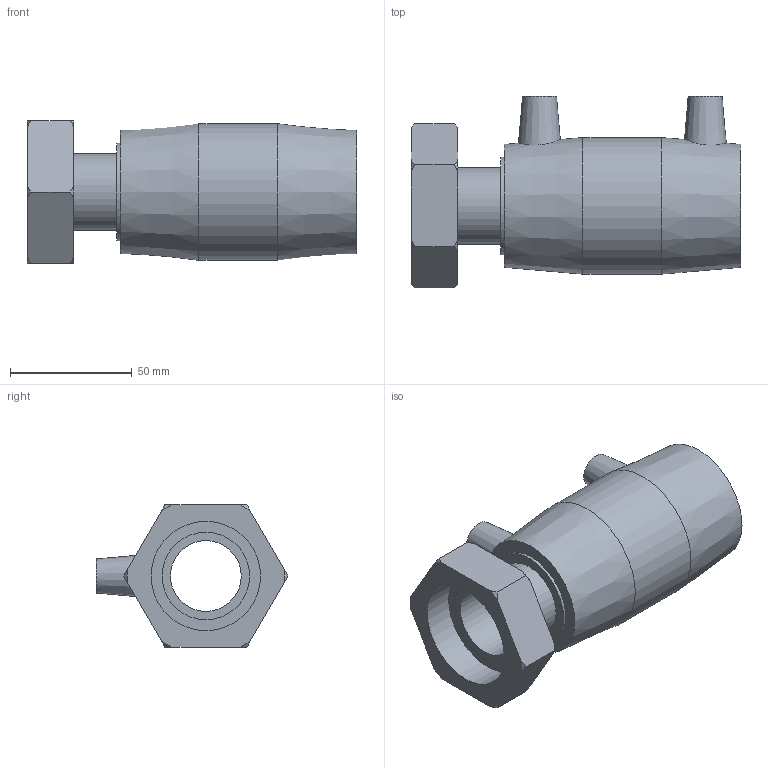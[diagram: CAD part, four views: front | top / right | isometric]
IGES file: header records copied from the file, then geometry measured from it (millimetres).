
Global section: file name: 494104040015.ipt; native system: Autodesk Inventor 2015; preprocessor: unknown; author: KIM; date: 20180426.120759; units: millimetre
Bounding box: 135 x 78.63 x 58.26 mm (x, y, z)
Volume: 170647.3 mm3; surface area: 48892.7 mm2
Topology: 1 solids, 2 shells, 54 faces, 128 edges, 88 vertices
Faces by surface type: plane 22, cone 16, revolution 9, cylinder 7
Full cylindrical faces by diameter (mm): 4 x2, 31.392 x1, 35.876 x1, 40 x2, 56 x1
